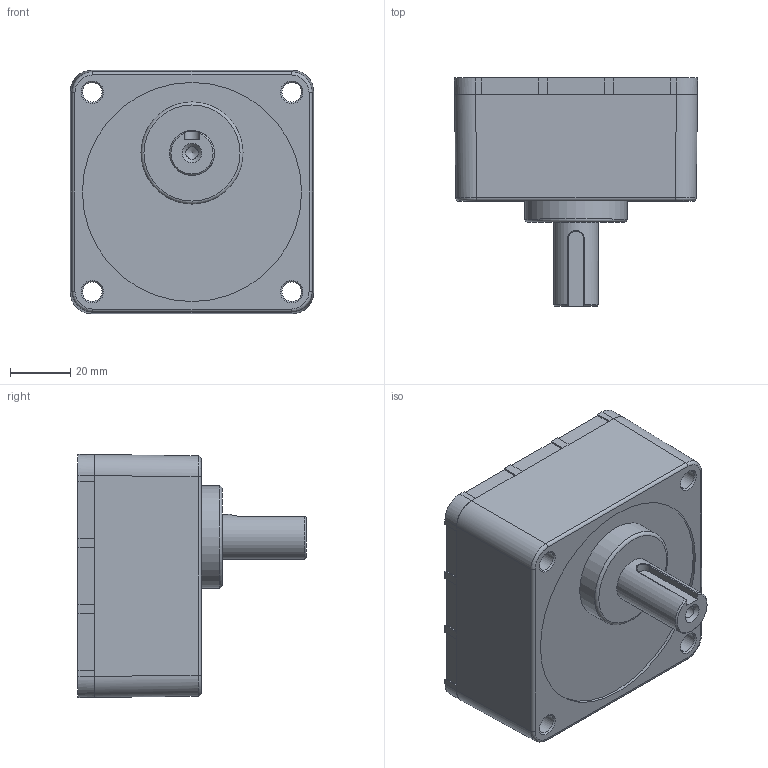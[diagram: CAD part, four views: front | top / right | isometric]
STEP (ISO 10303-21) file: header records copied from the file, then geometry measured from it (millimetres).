
FILE_DESCRIPTION((''),'2;1');
FILE_NAME('E:\2공장-도면\3D\STEP FILE\K8H(5~20)B.stp','2014-08-18T15:39:38',('輺'),(''),'Autodesk Inventor 2008','Autodesk Inventor 2008','');
FILE_SCHEMA(('CONFIG_CONTROL_DESIGN'));
Length unit declared in the file: millimetre
Products named in the file (1): 부품51
Bounding box: 81 x 76 x 81 mm (x, y, z)
Volume: 254984.3 mm3; surface area: 31778.7 mm2
Topology: 1 solids, 1 shells, 130 faces, 308 edges, 189 vertices
Faces by surface type: plane 86, cylinder 26, bspline 10, cone 7, torus 1
Full cylindrical faces by diameter (mm): 6.5 x4, 7 x4, 8.2 x1, 15 x1, 34 x1, 73 x2
Entity records: 4254 total; most frequent: CARTESIAN_POINT 1213, DIRECTION 577, ORIENTED_EDGE 562, EDGE_CURVE 281, VECTOR 203, LINE 203, AXIS2_PLACEMENT_3D 187, VERTEX_POINT 185
